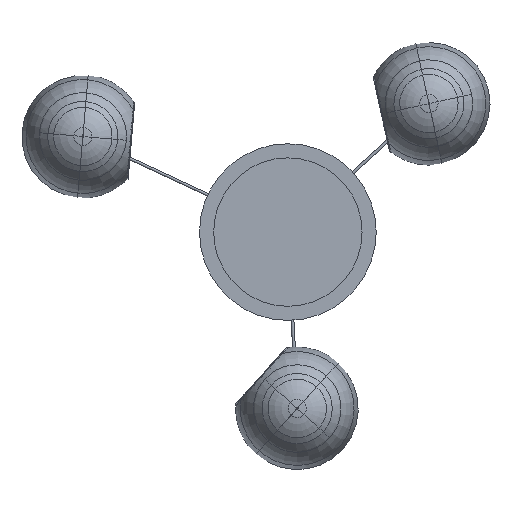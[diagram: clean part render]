
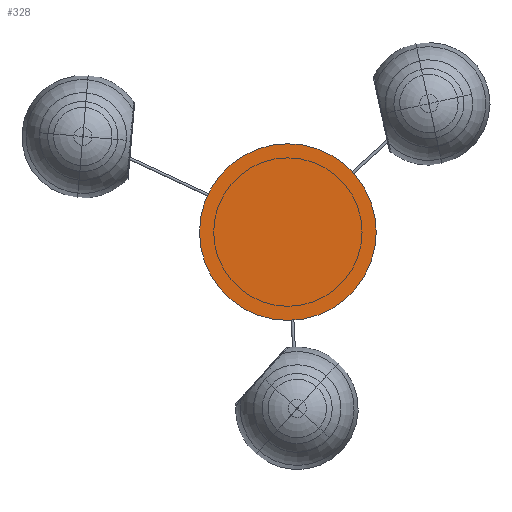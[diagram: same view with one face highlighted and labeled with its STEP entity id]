
A CAD part, front view. The second image highlights one B-rep face of the part: STEP entity #328.
In plain terms, the highlighted planar face has unit normal (0, -1, 0).
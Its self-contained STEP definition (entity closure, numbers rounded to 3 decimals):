
#254 = EDGE_LOOP ( 'NONE', ( #8097, #12192 ) ) ;
#328 = ADVANCED_FACE ( 'NONE', ( #11398 ), #8970, .T. ) ;
#918 = CARTESIAN_POINT ( 'NONE',  ( 0., -15., 125. ) ) ;
#3370 = CARTESIAN_POINT ( 'NONE',  ( 0., -15., 0. ) ) ;
#4230 = AXIS2_PLACEMENT_3D ( 'NONE', #13794, #7819, #9145 ) ;
#5151 = EDGE_CURVE ( 'NONE', #8734, #7231, #10967, .T. ) ;
#6312 = DIRECTION ( 'NONE',  ( 0., 0., -1. ) ) ;
#7052 = DIRECTION ( 'NONE',  ( 0., 0., -1. ) ) ;
#7231 = VERTEX_POINT ( 'NONE', #918 ) ;
#7652 = AXIS2_PLACEMENT_3D ( 'NONE', #3370, #9373, #7052 ) ;
#7800 = DIRECTION ( 'NONE',  ( 0., -1., 0. ) ) ;
#7819 = DIRECTION ( 'NONE',  ( 0., -1., 0. ) ) ;
#7914 = CARTESIAN_POINT ( 'NONE',  ( 0., -15., -125. ) ) ;
#8097 = ORIENTED_EDGE ( 'NONE', *, *, #5151, .T. ) ;
#8734 = VERTEX_POINT ( 'NONE', #7914 ) ;
#8970 = PLANE ( 'NONE',  #10122 ) ;
#9145 = DIRECTION ( 'NONE',  ( 0., 0., -1. ) ) ;
#9373 = DIRECTION ( 'NONE',  ( 0., -1., 0. ) ) ;
#10122 = AXIS2_PLACEMENT_3D ( 'NONE', #13778, #7800, #6312 ) ;
#10967 = CIRCLE ( 'NONE', #4230, 125. ) ;
#11398 = FACE_OUTER_BOUND ( 'NONE', #254, .T. ) ;
#12192 = ORIENTED_EDGE ( 'NONE', *, *, #12205, .T. ) ;
#12205 = EDGE_CURVE ( 'NONE', #7231, #8734, #14417, .T. ) ;
#13778 = CARTESIAN_POINT ( 'NONE',  ( 0., -15., -125. ) ) ;
#13794 = CARTESIAN_POINT ( 'NONE',  ( 0., -15., 0. ) ) ;
#14417 = CIRCLE ( 'NONE', #7652, 125. ) ;
